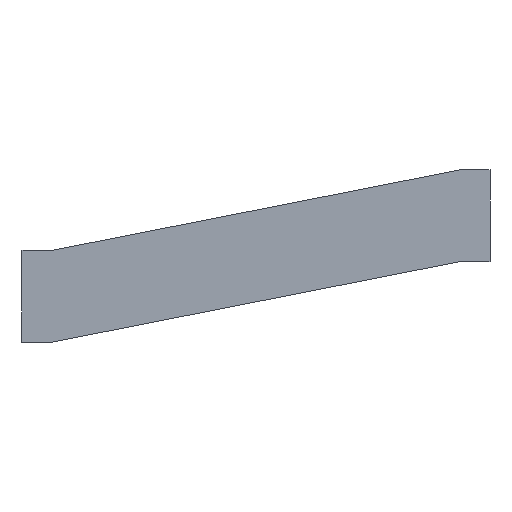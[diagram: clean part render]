
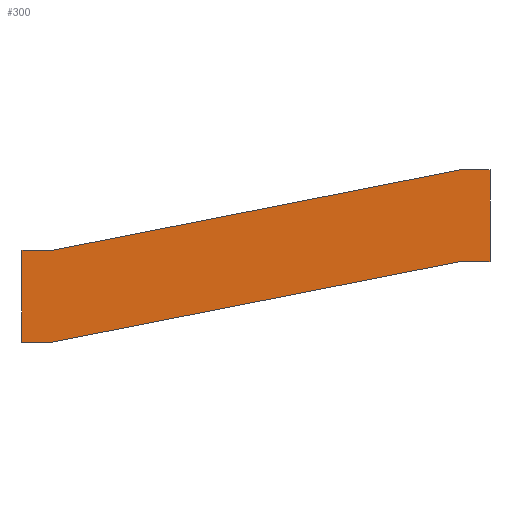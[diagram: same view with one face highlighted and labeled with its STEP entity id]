
A CAD part, left-side view. The second image highlights one B-rep face of the part: STEP entity #300.
In plain terms, the highlighted planar face has unit normal (-1, 0, 0).
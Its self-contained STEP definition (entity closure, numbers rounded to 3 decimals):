
#28=FACE_OUTER_BOUND('',#44,.T.);
#44=EDGE_LOOP('',(#251,#252,#253,#254,#255,#256,#257,#258));
#60=LINE('',#437,#100);
#64=LINE('',#445,#104);
#67=LINE('',#450,#107);
#70=LINE('',#456,#110);
#73=LINE('',#462,#113);
#81=LINE('',#476,#121);
#83=LINE('',#481,#123);
#85=LINE('',#484,#125);
#100=VECTOR('',#356,10.);
#104=VECTOR('',#362,10.);
#107=VECTOR('',#367,10.);
#110=VECTOR('',#374,10.);
#113=VECTOR('',#379,10.);
#121=VECTOR('',#393,10.);
#123=VECTOR('',#397,10.);
#125=VECTOR('',#401,10.);
#137=VERTEX_POINT('',#434);
#138=VERTEX_POINT('',#436);
#140=VERTEX_POINT('',#442);
#141=VERTEX_POINT('',#444);
#143=VERTEX_POINT('',#455);
#145=VERTEX_POINT('',#461);
#148=VERTEX_POINT('',#474);
#150=VERTEX_POINT('',#480);
#164=EDGE_CURVE('',#137,#138,#60,.T.);
#168=EDGE_CURVE('',#140,#141,#64,.T.);
#171=EDGE_CURVE('',#138,#140,#67,.T.);
#174=EDGE_CURVE('',#143,#141,#70,.T.);
#177=EDGE_CURVE('',#137,#145,#73,.T.);
#185=EDGE_CURVE('',#148,#145,#81,.T.);
#187=EDGE_CURVE('',#143,#150,#83,.T.);
#189=EDGE_CURVE('',#148,#150,#85,.T.);
#251=ORIENTED_EDGE('',*,*,#189,.T.);
#252=ORIENTED_EDGE('',*,*,#187,.F.);
#253=ORIENTED_EDGE('',*,*,#174,.T.);
#254=ORIENTED_EDGE('',*,*,#168,.F.);
#255=ORIENTED_EDGE('',*,*,#171,.F.);
#256=ORIENTED_EDGE('',*,*,#164,.F.);
#257=ORIENTED_EDGE('',*,*,#177,.T.);
#258=ORIENTED_EDGE('',*,*,#185,.F.);
#284=PLANE('',#330);
#300=ADVANCED_FACE('',(#28),#284,.F.);
#330=AXIS2_PLACEMENT_3D('',#483,#399,#400);
#356=DIRECTION('',(0.,-1.,0.));
#362=DIRECTION('',(0.,1.,0.));
#367=DIRECTION('',(0.,0.,-1.));
#374=DIRECTION('',(0.,-0.981,0.194));
#379=DIRECTION('',(0.,0.981,-0.194));
#393=DIRECTION('',(0.,-1.,0.));
#397=DIRECTION('',(0.,1.,0.));
#399=DIRECTION('center_axis',(1.,0.,0.));
#400=DIRECTION('ref_axis',(0.,0.,-1.));
#401=DIRECTION('',(0.,0.,-1.));
#434=CARTESIAN_POINT('',(83.,35.1,211.75));
#436=CARTESIAN_POINT('',(83.,34.3,211.75));
#437=CARTESIAN_POINT('',(83.,34.7,211.75));
#442=CARTESIAN_POINT('',(83.,34.3,209.25));
#444=CARTESIAN_POINT('',(83.,35.1,209.25));
#445=CARTESIAN_POINT('',(83.,34.7,209.25));
#450=CARTESIAN_POINT('',(83.,34.3,210.5));
#455=CARTESIAN_POINT('',(83.,46.25,207.05));
#456=CARTESIAN_POINT('',(83.,46.25,207.05));
#461=CARTESIAN_POINT('',(83.,46.25,209.55));
#462=CARTESIAN_POINT('',(83.,35.1,211.75));
#474=CARTESIAN_POINT('',(83.,47.05,209.55));
#476=CARTESIAN_POINT('',(83.,46.65,209.55));
#480=CARTESIAN_POINT('',(83.,47.05,207.05));
#481=CARTESIAN_POINT('',(83.,46.65,207.05));
#483=CARTESIAN_POINT('Origin',(83.,46.65,208.3));
#484=CARTESIAN_POINT('',(83.,47.05,208.3));
